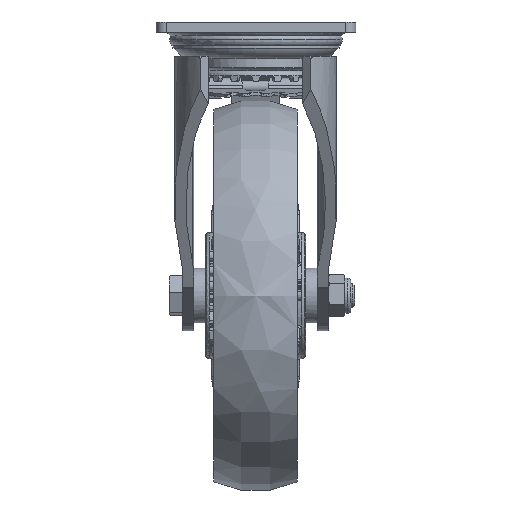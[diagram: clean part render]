
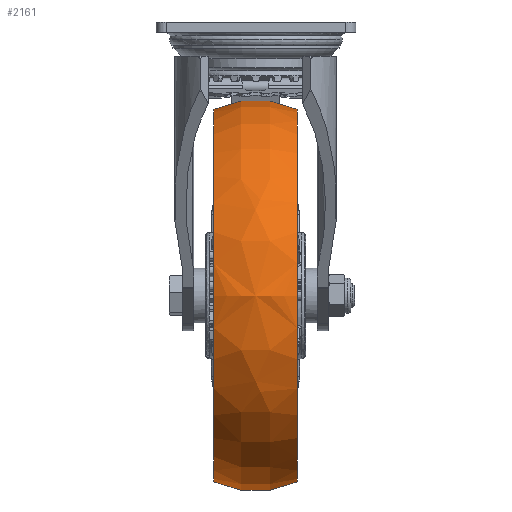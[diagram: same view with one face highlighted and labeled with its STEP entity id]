
A CAD part, left-side view. The second image highlights one B-rep face of the part: STEP entity #2161.
In plain terms, the highlighted free-form (B-spline) face has degree [3, 3] with [4, 7] control points.
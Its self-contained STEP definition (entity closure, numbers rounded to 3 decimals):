
#2019=(
BOUNDED_SURFACE()
B_SPLINE_SURFACE(3,3,((#33238,#33239,#33240,#33241,#33242,#33243,#33244),
(#33245,#33246,#33247,#33248,#33249,#33250,#33251),(#33252,#33253,#33254,
#33255,#33256,#33257,#33258),(#33259,#33260,#33261,#33262,#33263,#33264,
#33265)),.UNSPECIFIED.,.F.,.T.,.F.)
B_SPLINE_SURFACE_WITH_KNOTS((4,4),(1,3,3,3,1),(0.,1.),(-0.5,0.,0.5,1.,1.5),
 .UNSPECIFIED.)
GEOMETRIC_REPRESENTATION_ITEM()
RATIONAL_B_SPLINE_SURFACE(((1.,0.333,0.333,1.,0.333,
0.333,1.),(0.936,0.312,0.312,
0.936,0.312,0.312,0.936),
(0.936,0.312,0.312,0.936,
0.312,0.312,0.936),(1.,0.333,
0.333,1.,0.333,0.333,1.)))
REPRESENTATION_ITEM('')
SURFACE()
);
#2161=ADVANCED_FACE('',(#6217,#6218),#2019,.T.);
#5399=CIRCLE('',#24349,95.207);
#5413=CIRCLE('',#24364,95.207);
#6217=FACE_BOUND('',#6619,.T.);
#6218=FACE_BOUND('',#6620,.T.);
#6619=EDGE_LOOP('',(#8401));
#6620=EDGE_LOOP('',(#8402));
#8401=ORIENTED_EDGE('',*,*,#17680,.F.);
#8402=ORIENTED_EDGE('',*,*,#17835,.T.);
#15353=VERTEX_POINT('',#32098);
#15508=VERTEX_POINT('',#33228);
#17680=EDGE_CURVE('',#15353,#15353,#5399,.T.);
#17835=EDGE_CURVE('',#15508,#15508,#5413,.T.);
#24349=AXIS2_PLACEMENT_3D('',#32097,#26401,#26402);
#24364=AXIS2_PLACEMENT_3D('',#33227,#26522,#26523);
#26401=DIRECTION('',(0.,-1.,0.));
#26402=DIRECTION('',(-1.,0.,0.));
#26522=DIRECTION('',(0.,-1.,0.));
#26523=DIRECTION('',(-1.,0.,0.));
#32097=CARTESIAN_POINT('',(54.,-21.113,-140.));
#32098=CARTESIAN_POINT('',(-41.207,-21.113,-140.));
#33227=CARTESIAN_POINT('',(54.,21.613,-140.));
#33228=CARTESIAN_POINT('',(-41.207,21.613,-140.));
#33238=CARTESIAN_POINT('',(-41.207,-21.113,-140.));
#33239=CARTESIAN_POINT('',(-41.207,-21.113,-330.413));
#33240=CARTESIAN_POINT('',(149.207,-21.113,-330.413));
#33241=CARTESIAN_POINT('',(149.207,-21.113,-140.));
#33242=CARTESIAN_POINT('',(149.207,-21.113,50.413));
#33243=CARTESIAN_POINT('',(-41.207,-21.113,50.413));
#33244=CARTESIAN_POINT('',(-41.207,-21.113,-140.));
#33245=CARTESIAN_POINT('',(-47.707,-7.357,-140.));
#33246=CARTESIAN_POINT('',(-47.707,-7.357,-343.414));
#33247=CARTESIAN_POINT('',(155.707,-7.357,-343.414));
#33248=CARTESIAN_POINT('',(155.707,-7.357,-140.));
#33249=CARTESIAN_POINT('',(155.707,-7.357,63.414));
#33250=CARTESIAN_POINT('',(-47.707,-7.357,63.414));
#33251=CARTESIAN_POINT('',(-47.707,-7.357,-140.));
#33252=CARTESIAN_POINT('',(-47.707,7.857,-140.));
#33253=CARTESIAN_POINT('',(-47.707,7.857,-343.414));
#33254=CARTESIAN_POINT('',(155.707,7.857,-343.414));
#33255=CARTESIAN_POINT('',(155.707,7.857,-140.));
#33256=CARTESIAN_POINT('',(155.707,7.857,63.414));
#33257=CARTESIAN_POINT('',(-47.707,7.857,63.414));
#33258=CARTESIAN_POINT('',(-47.707,7.857,-140.));
#33259=CARTESIAN_POINT('',(-41.207,21.613,-140.));
#33260=CARTESIAN_POINT('',(-41.207,21.613,-330.413));
#33261=CARTESIAN_POINT('',(149.207,21.613,-330.413));
#33262=CARTESIAN_POINT('',(149.207,21.613,-140.));
#33263=CARTESIAN_POINT('',(149.207,21.613,50.413));
#33264=CARTESIAN_POINT('',(-41.207,21.613,50.413));
#33265=CARTESIAN_POINT('',(-41.207,21.613,-140.));
